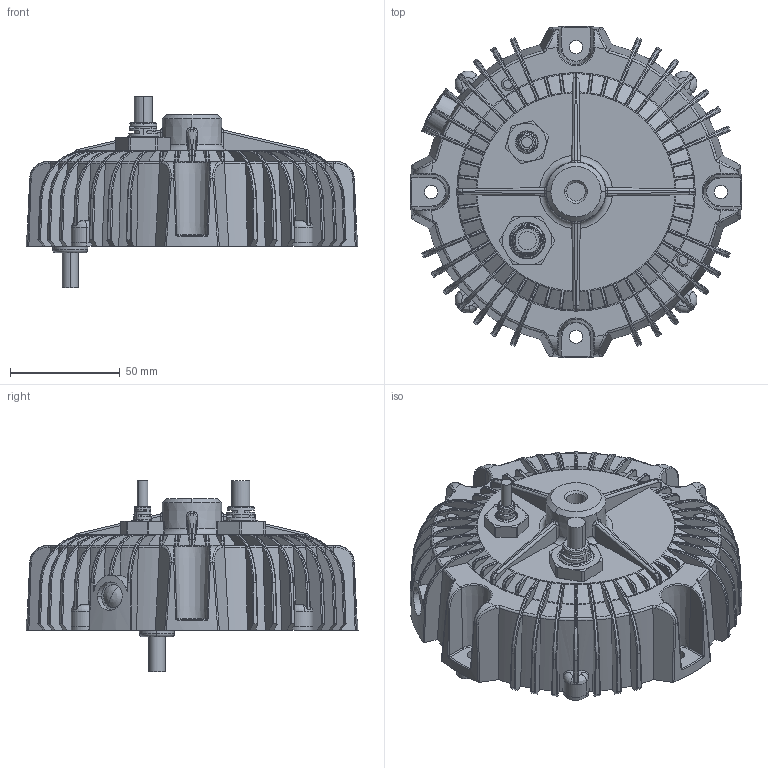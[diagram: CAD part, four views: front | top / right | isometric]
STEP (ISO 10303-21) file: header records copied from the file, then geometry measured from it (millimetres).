
FILE_DESCRIPTION(('Creo Elements/Direct Modeling STEP Export'),'2;1');
FILE_NAME('XBG-160.stp','2019-03-20T17:00:14',(''),(''),'PTC Creo Elements/Direct Modeling STEP processor for AP214 (Solid Model)','PTC Creo Elements/Direct Modeling 19.0 09-May-2014 (C) Parametric Technology GmbH','');
FILE_SCHEMA(('AUTOMOTIVE_DESIGN { 1 0 10303 214 1 1 1 1 }'));
Length unit declared in the file: millimetre
Products named in the file (14): base; TOP; OP; hxt; OP-1; VRsai; HY-030-1901-1___.prt; HY-030-1901-2___SR.prt; DIMM; Skin_Group1; Skin_Group1.1; dp; IPA; case
Assembly tree (13 placements, depth 3):
  case
    IPA
      dp
      Skin_Group1.1
      Skin_Group1
    DIMM
      HY-030-1901-2___SR.prt
      HY-030-1901-1___.prt
    VRsai
    OP-1
      hxt
      OP
    TOP
    base
Bounding box: 151.3 x 151.3 x 87.2 mm (x, y, z)
Volume: 145709.4 mm3; surface area: 129105.3 mm2
Topology: 10 solids, 10 shells, 1788 faces, 4669 edges, 2881 vertices
Faces by surface type: cylinder 440, bspline 395, plane 375, torus 325, cone 205, sphere 46, revolution 2
Entity records: 129276 total; most frequent: CARTESIAN_POINT 89429, ORIENTED_EDGE 9222, DIRECTION 6545, EDGE_CURVE 4611, VERTEX_POINT 2881, AXIS2_PLACEMENT_3D 2728, EDGE_LOOP 1866, FACE_OUTER_BOUND 1788
